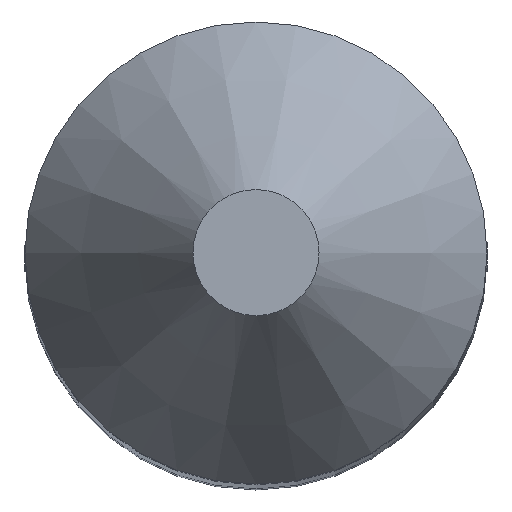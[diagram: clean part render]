
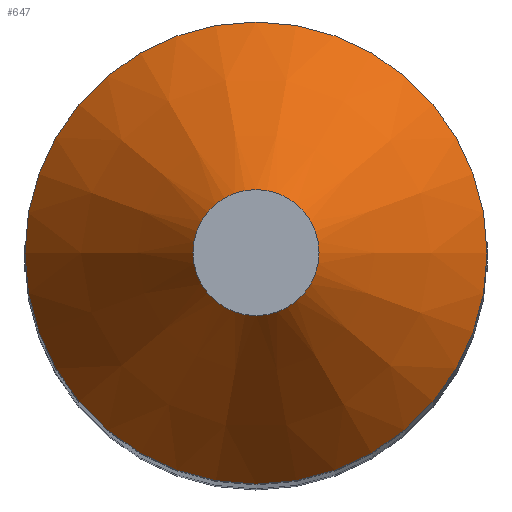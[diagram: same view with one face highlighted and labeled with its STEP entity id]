
A CAD part, top view. The second image highlights one B-rep face of the part: STEP entity #647.
In plain terms, the highlighted conical face has half-angle 33.69 degrees and reference radius 2750 mm.
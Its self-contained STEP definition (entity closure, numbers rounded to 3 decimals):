
#647 = ADVANCED_FACE('',(#648),#661,.T.);
#648 = FACE_BOUND('',#649,.T.);
#649 = EDGE_LOOP('',(#650,#684,#704,#731));
#650 = ORIENTED_EDGE('',*,*,#651,.T.);
#651 = EDGE_CURVE('',#652,#652,#654,.T.);
#652 = VERTEX_POINT('',#653);
#653 = CARTESIAN_POINT('',(2750.,0.,0.));
#654 = SURFACE_CURVE('',#655,(#660,#672),.PCURVE_S1.);
#655 = CIRCLE('',#656,2750.);
#656 = AXIS2_PLACEMENT_3D('',#657,#658,#659);
#657 = CARTESIAN_POINT('',(0.,0.,0.));
#658 = DIRECTION('',(0.,0.,1.));
#659 = DIRECTION('',(1.,0.,0.));
#660 = PCURVE('',#661,#666);
#661 = CONICAL_SURFACE('',#662,2750.,0.588);
#662 = AXIS2_PLACEMENT_3D('',#663,#664,#665);
#663 = CARTESIAN_POINT('',(0.,0.,0.));
#664 = DIRECTION('',(-0.,-0.,-1.));
#665 = DIRECTION('',(1.,0.,0.));
#666 = DEFINITIONAL_REPRESENTATION('',(#667),#671);
#667 = LINE('',#668,#669);
#668 = CARTESIAN_POINT('',(-0.,-0.));
#669 = VECTOR('',#670,1.);
#670 = DIRECTION('',(-1.,-0.));
#671 = ( GEOMETRIC_REPRESENTATION_CONTEXT(2) 
PARAMETRIC_REPRESENTATION_CONTEXT() REPRESENTATION_CONTEXT('2D SPACE',''
  ) );
#672 = PCURVE('',#673,#678);
#673 = PLANE('',#674);
#674 = AXIS2_PLACEMENT_3D('',#675,#676,#677);
#675 = CARTESIAN_POINT('',(0.,0.,0.));
#676 = DIRECTION('',(0.,0.,1.));
#677 = DIRECTION('',(1.,0.,0.));
#678 = DEFINITIONAL_REPRESENTATION('',(#679),#683);
#679 = CIRCLE('',#680,2750.);
#680 = AXIS2_PLACEMENT_2D('',#681,#682);
#681 = CARTESIAN_POINT('',(0.,0.));
#682 = DIRECTION('',(1.,0.));
#683 = ( GEOMETRIC_REPRESENTATION_CONTEXT(2) 
PARAMETRIC_REPRESENTATION_CONTEXT() REPRESENTATION_CONTEXT('2D SPACE',''
  ) );
#684 = ORIENTED_EDGE('',*,*,#685,.T.);
#685 = EDGE_CURVE('',#652,#686,#688,.T.);
#686 = VERTEX_POINT('',#687);
#687 = CARTESIAN_POINT('',(750.,0.,3000.));
#688 = SEAM_CURVE('',#689,(#692,#698),.PCURVE_S1.);
#689 = B_SPLINE_CURVE_WITH_KNOTS('',1,(#690,#691),.UNSPECIFIED.,.F.,.F.,
  (2,2),(0.,1.),.PIECEWISE_BEZIER_KNOTS.);
#690 = CARTESIAN_POINT('',(2750.,0.,0.));
#691 = CARTESIAN_POINT('',(750.,0.,3000.));
#692 = PCURVE('',#661,#693);
#693 = DEFINITIONAL_REPRESENTATION('',(#694),#697);
#694 = B_SPLINE_CURVE_WITH_KNOTS('',1,(#695,#696),.UNSPECIFIED.,.F.,.F.,
  (2,2),(0.,1.),.PIECEWISE_BEZIER_KNOTS.);
#695 = CARTESIAN_POINT('',(-6.283,0.));
#696 = CARTESIAN_POINT('',(-6.283,-3000.));
#697 = ( GEOMETRIC_REPRESENTATION_CONTEXT(2) 
PARAMETRIC_REPRESENTATION_CONTEXT() REPRESENTATION_CONTEXT('2D SPACE',''
  ) );
#698 = PCURVE('',#661,#699);
#699 = DEFINITIONAL_REPRESENTATION('',(#700),#703);
#700 = B_SPLINE_CURVE_WITH_KNOTS('',1,(#701,#702),.UNSPECIFIED.,.F.,.F.,
  (2,2),(0.,1.),.PIECEWISE_BEZIER_KNOTS.);
#701 = CARTESIAN_POINT('',(0.,0.));
#702 = CARTESIAN_POINT('',(0.,-3000.));
#703 = ( GEOMETRIC_REPRESENTATION_CONTEXT(2) 
PARAMETRIC_REPRESENTATION_CONTEXT() REPRESENTATION_CONTEXT('2D SPACE',''
  ) );
#704 = ORIENTED_EDGE('',*,*,#705,.F.);
#705 = EDGE_CURVE('',#686,#686,#706,.T.);
#706 = SURFACE_CURVE('',#707,(#712,#719),.PCURVE_S1.);
#707 = CIRCLE('',#708,750.);
#708 = AXIS2_PLACEMENT_3D('',#709,#710,#711);
#709 = CARTESIAN_POINT('',(0.,0.,3000.));
#710 = DIRECTION('',(0.,0.,1.));
#711 = DIRECTION('',(1.,0.,0.));
#712 = PCURVE('',#661,#713);
#713 = DEFINITIONAL_REPRESENTATION('',(#714),#718);
#714 = LINE('',#715,#716);
#715 = CARTESIAN_POINT('',(-0.,-3000.));
#716 = VECTOR('',#717,1.);
#717 = DIRECTION('',(-1.,-0.));
#718 = ( GEOMETRIC_REPRESENTATION_CONTEXT(2) 
PARAMETRIC_REPRESENTATION_CONTEXT() REPRESENTATION_CONTEXT('2D SPACE',''
  ) );
#719 = PCURVE('',#720,#725);
#720 = PLANE('',#721);
#721 = AXIS2_PLACEMENT_3D('',#722,#723,#724);
#722 = CARTESIAN_POINT('',(0.,0.,3000.));
#723 = DIRECTION('',(0.,0.,1.));
#724 = DIRECTION('',(1.,0.,0.));
#725 = DEFINITIONAL_REPRESENTATION('',(#726),#730);
#726 = CIRCLE('',#727,750.);
#727 = AXIS2_PLACEMENT_2D('',#728,#729);
#728 = CARTESIAN_POINT('',(0.,0.));
#729 = DIRECTION('',(1.,0.));
#730 = ( GEOMETRIC_REPRESENTATION_CONTEXT(2) 
PARAMETRIC_REPRESENTATION_CONTEXT() REPRESENTATION_CONTEXT('2D SPACE',''
  ) );
#731 = ORIENTED_EDGE('',*,*,#685,.F.);
